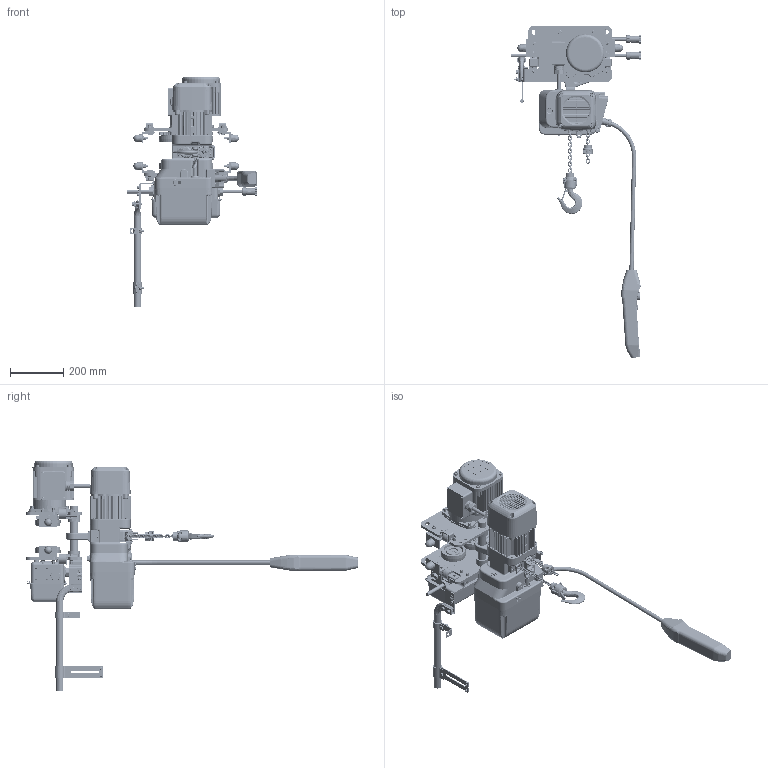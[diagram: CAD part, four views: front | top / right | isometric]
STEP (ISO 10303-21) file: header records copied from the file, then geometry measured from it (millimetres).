
FILE_DESCRIPTION (( 'STEP AP214' ), '1' );
FILE_NAME ('NER2M003SD-L.STEP', '2026-08-06T17:42:43', ( '' ), ( '' ), 'SwSTEP 2.0', 'SolidWorks 2026', '' );
FILE_SCHEMA (( 'AUTOMOTIVE_DESIGN' ));
Length unit declared in the file: inch
Products named in the file (142): MR1DS1211_Reversed; 9091252_B18.3.1M - 6 x 1.0 x 30 Hex SHCS -- 30CHX; MS527010; M6FE010S9113; hexagon slotted nut low_1 small_jis_T3P154020; MR1DS1211; ECP5924AB1; ER2CS9357; LCER2003NP; socket head cap screw_am_9091295; hex cap screw_am_9093330; E6L614010S; M6SE010S9101; T6G156020; ER2BS9053; 60704; MR1DS1481; ECP5924AH; ECP5924AA1; ER2BS9332; MS1102010; ER2CS9186; hex nut style 1_am_9093424; ER2BHM03I9A51; MR1DS9501; NER2M003SD-L; 90912134; MR2SHM03S9A7; basic internal retaining ring_am_9047242; 9009446_9009446; ER2BS1011; ECP6916AA; ER1BS9135; MS551010; 9091251_9091251; ER2BS2015; MR1DS9492; MS161010; ER2CS1002; ECP6914AA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
Assembly tree (346 placements, depth 6):
  NER2M003SD-L
    MR2003L_5" FLANGE
      MR1DS5201
        MR1DS9201
        MR1DS9203  x2
        M6FE010S9113
      MR1DS5202
        MR1DS9202
        MR1DS9203  x2
        M6FE010S9114
      MSF115010_MSF115010
      MR1DS9634  x4
      hex cap screw_am_9093330  x8
      single coil rectangular section spring washer_bsi_9012711  x20
      hex nut style 1_am_9093424  x16
      MR1DS9631  x4
      MS006010  x4
      MR1DS1211_Reversed  x2
        MR1DS1211
        MR1DS9218
      MR1DS1211  x2
        MR1DS1211
        MR1DS9218
      MS1101010  x2
        M6SE010S9101
        6302Z BEARING
        basic internal retaining ring_am_9047242
      hex cap screw_am_9093329  x4
      MS1102010  x2
        M6SE010S9102
        6302Z BEARING
        basic internal retaining ring_am_9047242
      MR1DS9131_MR1DS9131
      9009446_9009446  x2
      MS161010
      T6G156020
      9009432_9009432
      hexagon slotted nut low_1 small_jis_T3P154020
      split pin (metric) as_9009414-5
      9047115_9047115  x4
      MS104010  x4
      6077801
        MR1DS93112
        MR1DS9324
        MR1DS9325
        MR1DS1301
        90912134  x4
        MS554010  x4
      9012513  x4
      hex cap screw_am_9093328  x4
      MR1DS9248
      70131XX_7013101
        MR1DS9411
        MR1DS9401_1 - 8 TON & 10 L TON
        MR1DS9421
        MS554010  x12
        MR2DI2811
          ECP5924AH
          MS527010
          MR2DI1811
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Bounding box: 490.66 x 1247.21 x 867.53 mm (x, y, z)
Volume: 18076463.9 mm3; surface area: 3057542.1 mm2
Topology: 385 solids, 401 shells, 15334 faces, 40042 edges, 25839 vertices
Faces by surface type: plane 7115, cylinder 4795, cone 1287, torus 1220, bspline 821, sphere 96
Entity records: 351876 total; most frequent: CARTESIAN_POINT 122308, ORIENTED_EDGE 46636, DIRECTION 44868, EDGE_CURVE 23320, AXIS2_PLACEMENT_3D 16757, VERTEX_POINT 15305, LINE 11354, VECTOR 11354
